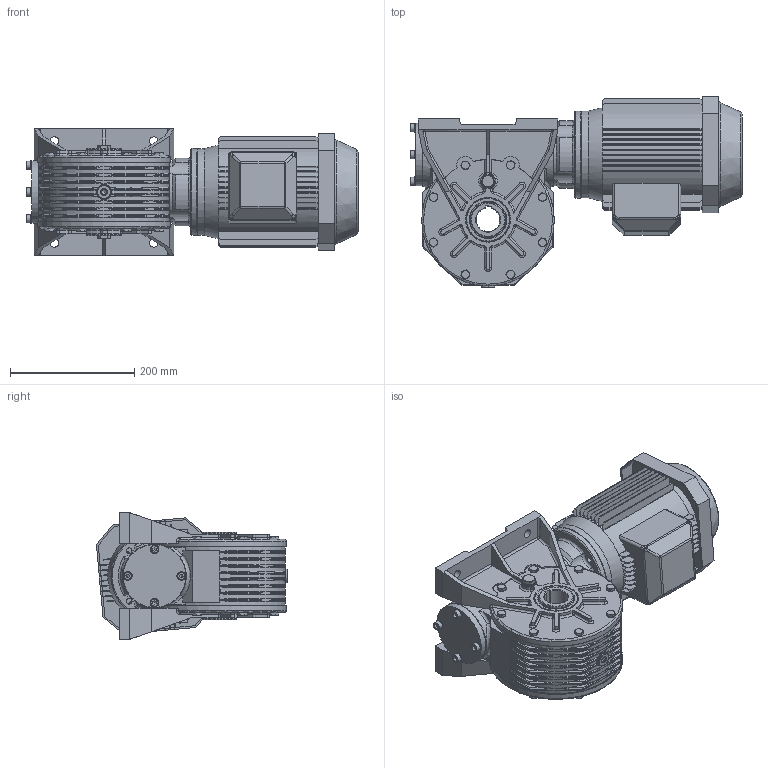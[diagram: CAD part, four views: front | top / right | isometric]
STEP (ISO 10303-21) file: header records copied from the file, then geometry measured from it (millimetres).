
FILE_DESCRIPTION((''),'2;1');
FILE_NAME('Y:\Archivi Inventor\Prog_01\GRAND_50\complessivi\Figurini\MRV50 sito\90l\mrv50_P1_90L_B14.stp','2013-02-08T10:20:00',('tech3'),(''),'Autodesk Inventor 2013','Autodesk Inventor 2013','');
FILE_SCHEMA(('AUTOMOTIVE_DESIGN { 1 0 10303 214 1 1 1 1 }'));
Length unit declared in the file: millimetre
Products named in the file (18): mrv50_90s_90l_b14; mrv50_fig; Figurino_carcassa_MRV50; 0105028; 0105029; figurino_corona_MRV50; figurino_0105010; Guarnizione 3_8 GAS; Tappo 3_8 GAS_esagn_incsst; Tappo3_8 GAS; figurino_0105009; ISO 4017 M8 x 20; 55_70_8; UNI 6592 8.4 x 14; UNI 5931  M 8 x  25; 0105006; DIN EN ISO 4762 M8 x 25; motori B14 90L
Assembly tree (50 placements, depth 3):
  mrv50_90s_90l_b14
    mrv50_fig
      Figurino_carcassa_MRV50
      0105028  x2
      0105029  x2
      figurino_corona_MRV50
      figurino_0105010  x2
      Guarnizione 3_8 GAS  x4
      Tappo 3_8 GAS_esagn_incsst  x2
      Tappo3_8 GAS  x2
      figurino_0105009
      ISO 4017 M8 x 20  x16
      55_70_8  x2
      UNI 6592 8.4 x 14  x4
      UNI 5931  M 8 x  25  x4
    0105006
    DIN EN ISO 4762 M8 x 25  x4
    motori B14 90L
Bounding box: 533.8 x 307.51 x 203.7 mm (x, y, z)
Volume: 11425793.5 mm3; surface area: 1198847.7 mm2
Topology: 61 solids, 63 shells, 2068 faces, 4947 edges, 2952 vertices
Faces by surface type: plane 862, cylinder 616, cone 229, bspline 162, torus 161, sphere 38
Full cylindrical faces by diameter (mm): 2 x2, 6.647 x28, 8 x26, 8.4 x4, 8.5 x48, 9 x4, 11.63 x16, 13 x12, 13.046 x2, 14 x12, 14.95 x4, 16.3 x4, 16.5 x2, 22 x8, 24 x3, 55 x1, 60 x1, 66.4 x2, 69 x2, 70 x6, 72 x4, 73 x2, 75 x1, 95 x1, 99.5 x2, 101 x1, 102 x2, 114.4 x1, 140 x2, 176 x4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
Entity records: 48949 total; most frequent: CARTESIAN_POINT 16882, DIRECTION 6566, ORIENTED_EDGE 6142, EDGE_CURVE 3071, AXIS2_PLACEMENT_3D 2549, VERTEX_POINT 1993, EDGE_LOOP 1736, VECTOR 1468
